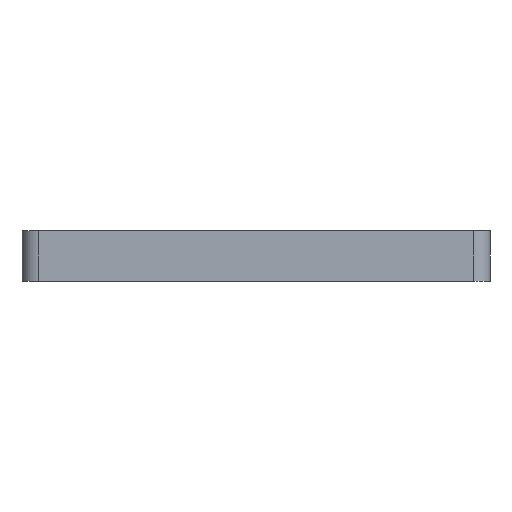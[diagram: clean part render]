
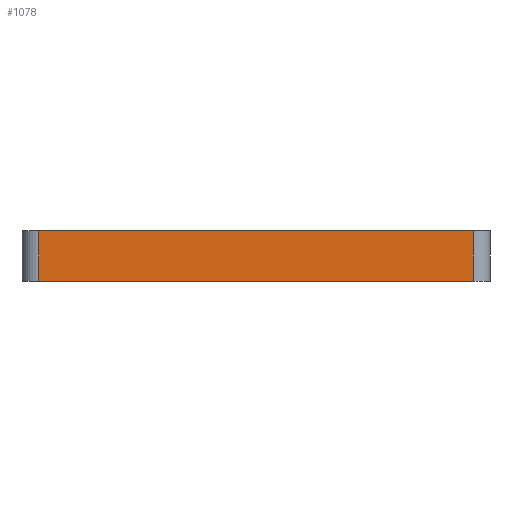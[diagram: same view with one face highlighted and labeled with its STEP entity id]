
A CAD part, left-side view. The second image highlights one B-rep face of the part: STEP entity #1078.
In plain terms, the highlighted planar face has unit normal (-1, 0, 0).
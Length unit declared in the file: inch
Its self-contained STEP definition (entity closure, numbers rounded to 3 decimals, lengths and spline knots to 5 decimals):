
#55 = VERTEX_POINT ( 'NONE', #918 ) ;
#92 = PLANE ( 'NONE',  #1169 ) ;
#245 = LINE ( 'NONE', #895, #958 ) ;
#249 = VERTEX_POINT ( 'NONE', #394 ) ;
#290 = EDGE_CURVE ( 'NONE', #633, #249, #245, .T. ) ;
#312 = VECTOR ( 'NONE', #964, 39.37008 ) ;
#365 = DIRECTION ( 'NONE',  ( 0., -1., 0. ) ) ;
#388 = CARTESIAN_POINT ( 'NONE',  ( -1.25, 1.625, -0.375 ) ) ;
#394 = CARTESIAN_POINT ( 'NONE',  ( -1.25, 1.625, 0. ) ) ;
#495 = CARTESIAN_POINT ( 'NONE',  ( -1.25, -1.625, 0. ) ) ;
#521 = ORIENTED_EDGE ( 'NONE', *, *, #870, .T. ) ;
#571 = DIRECTION ( 'NONE',  ( 0., 1., 0. ) ) ;
#633 = VERTEX_POINT ( 'NONE', #495 ) ;
#687 = FACE_OUTER_BOUND ( 'NONE', #867, .T. ) ;
#694 = CARTESIAN_POINT ( 'NONE',  ( -1.25, -1.75, -0.375 ) ) ;
#704 = VERTEX_POINT ( 'NONE', #388 ) ;
#705 = DIRECTION ( 'NONE',  ( 0., 0., -1. ) ) ;
#759 = VECTOR ( 'NONE', #1293, 39.37008 ) ;
#763 = CARTESIAN_POINT ( 'NONE',  ( -1.25, 1.625, 0. ) ) ;
#769 = ORIENTED_EDGE ( 'NONE', *, *, #290, .T. ) ;
#780 = ORIENTED_EDGE ( 'NONE', *, *, #1103, .T. ) ;
#798 = ORIENTED_EDGE ( 'NONE', *, *, #887, .F. ) ;
#837 = CARTESIAN_POINT ( 'NONE',  ( -1.25, -1.625, 0. ) ) ;
#867 = EDGE_LOOP ( 'NONE', ( #769, #521, #798, #780 ) ) ;
#870 = EDGE_CURVE ( 'NONE', #249, #704, #949, .T. ) ;
#887 = EDGE_CURVE ( 'NONE', #55, #704, #903, .T. ) ;
#895 = CARTESIAN_POINT ( 'NONE',  ( -1.25, -1.75, 0. ) ) ;
#903 = LINE ( 'NONE', #694, #759 ) ;
#918 = CARTESIAN_POINT ( 'NONE',  ( -1.25, -1.625, -0.375 ) ) ;
#949 = LINE ( 'NONE', #763, #1029 ) ;
#958 = VECTOR ( 'NONE', #571, 39.37008 ) ;
#964 = DIRECTION ( 'NONE',  ( 0., 0., 1. ) ) ;
#1004 = CARTESIAN_POINT ( 'NONE',  ( -1.25, -1.75, 0. ) ) ;
#1029 = VECTOR ( 'NONE', #705, 39.37008 ) ;
#1047 = DIRECTION ( 'NONE',  ( -1., 0., 0. ) ) ;
#1078 = ADVANCED_FACE ( 'NONE', ( #687 ), #92, .T. ) ;
#1103 = EDGE_CURVE ( 'NONE', #55, #633, #1216, .T. ) ;
#1169 = AXIS2_PLACEMENT_3D ( 'NONE', #1004, #1047, #365 ) ;
#1216 = LINE ( 'NONE', #837, #312 ) ;
#1293 = DIRECTION ( 'NONE',  ( 0., 1., 0. ) ) ;
